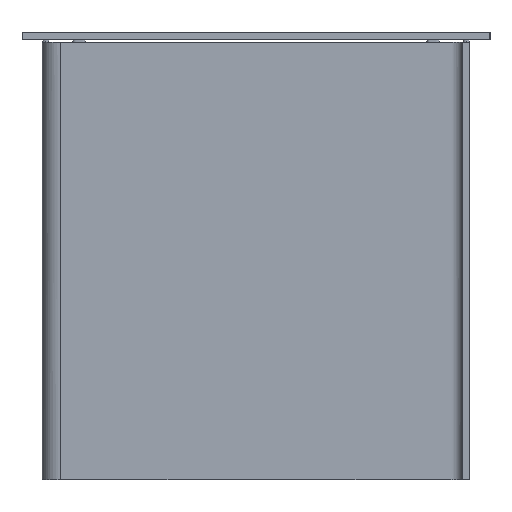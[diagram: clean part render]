
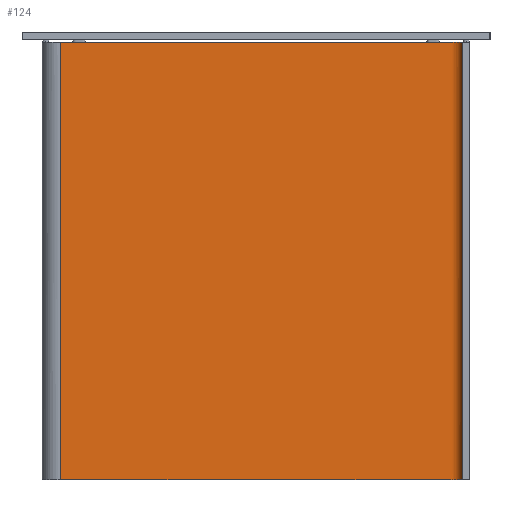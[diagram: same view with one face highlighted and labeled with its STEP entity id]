
A CAD part, left-side view. The second image highlights one B-rep face of the part: STEP entity #124.
In plain terms, the highlighted free-form (B-spline) face has degree [2, 1] with [7, 2] control points.
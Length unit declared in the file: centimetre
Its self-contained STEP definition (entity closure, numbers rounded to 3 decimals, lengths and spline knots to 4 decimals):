
#25=(
BOUNDED_SURFACE()
B_SPLINE_SURFACE(2,1,((#1143,#1144),(#1145,#1146),(#1147,#1148),(#1149,#1150),
(#1151,#1152),(#1153,#1154),(#1155,#1156)),.UNSPECIFIED.,.F.,.F.,.F.)
B_SPLINE_SURFACE_WITH_KNOTS((3,2,2,3),(2,2),(-66.5,-3.,-0.1726,
5.8274),(0.,71.),.UNSPECIFIED.)
GEOMETRIC_REPRESENTATION_ITEM()
RATIONAL_B_SPLINE_SURFACE(((1.,1.),(1.,1.),(1.,1.),(0.707,0.707),
(1.,1.),(1.,1.),(1.,1.)))
REPRESENTATION_ITEM($)
SURFACE()
);
#55=(
BOUNDED_CURVE()
B_SPLINE_CURVE(2,(#1079,#1080,#1081,#1082,#1083,#1084,#1085),.UNSPECIFIED.,
.F.,.F.)
B_SPLINE_CURVE_WITH_KNOTS((3,2,2,3),(-66.5,-3.,-0.1726,5.8274),
.UNSPECIFIED.)
CURVE()
GEOMETRIC_REPRESENTATION_ITEM()
RATIONAL_B_SPLINE_CURVE((1.,1.,1.,0.707,1.,1.,1.))
REPRESENTATION_ITEM($)
);
#59=(
BOUNDED_CURVE()
B_SPLINE_CURVE(2,(#1113,#1114,#1115,#1116,#1117,#1118,#1119),.UNSPECIFIED.,
.F.,.F.)
B_SPLINE_CURVE_WITH_KNOTS((3,2,2,3),(-5.8274,0.1726,
3.,66.5),.UNSPECIFIED.)
CURVE()
GEOMETRIC_REPRESENTATION_ITEM()
RATIONAL_B_SPLINE_CURVE((1.,1.,1.,0.707,1.,1.,1.))
REPRESENTATION_ITEM($)
);
#124=ADVANCED_FACE($,(#172),#25,.T.);
#172=FACE_OUTER_BOUND($,#220,.T.);
#220=EDGE_LOOP($,(#318,#319,#320,#321));
#318=ORIENTED_EDGE($,*,*,#453,.T.);
#319=ORIENTED_EDGE($,*,*,#449,.T.);
#320=ORIENTED_EDGE($,*,*,#443,.F.);
#321=ORIENTED_EDGE($,*,*,#442,.T.);
#442=EDGE_CURVE($,#520,#525,#55,.T.);
#443=EDGE_CURVE($,#520,#521,#602,.T.);
#449=EDGE_CURVE($,#526,#521,#59,.T.);
#453=EDGE_CURVE($,#525,#526,#607,.T.);
#520=VERTEX_POINT($,#1191);
#521=VERTEX_POINT($,#1192);
#525=VERTEX_POINT($,#1196);
#526=VERTEX_POINT($,#1197);
#602=B_SPLINE_CURVE_WITH_KNOTS($,1,(#1086,#1087),.UNSPECIFIED.,.F.,.F.,(2,
2),(0.,71.),.UNSPECIFIED.);
#607=B_SPLINE_CURVE_WITH_KNOTS($,1,(#1135,#1136),.UNSPECIFIED.,.F.,.F.,(2,
2),(0.,71.),.UNSPECIFIED.);
#1079=CARTESIAN_POINT($,(11.,69.75,0.));
#1080=CARTESIAN_POINT($,(11.,38.,0.));
#1081=CARTESIAN_POINT($,(11.,6.25,0.));
#1082=CARTESIAN_POINT($,(11.,4.45,0.));
#1083=CARTESIAN_POINT($,(9.2,4.45,0.));
#1084=CARTESIAN_POINT($,(6.2,4.45,0.));
#1085=CARTESIAN_POINT($,(3.2,4.45,0.));
#1086=CARTESIAN_POINT($,(11.,69.75,0.));
#1087=CARTESIAN_POINT($,(11.,69.75,71.));
#1113=CARTESIAN_POINT($,(3.2,4.45,71.));
#1114=CARTESIAN_POINT($,(6.2,4.45,71.));
#1115=CARTESIAN_POINT($,(9.2,4.45,71.));
#1116=CARTESIAN_POINT($,(11.,4.45,71.));
#1117=CARTESIAN_POINT($,(11.,6.25,71.));
#1118=CARTESIAN_POINT($,(11.,38.,71.));
#1119=CARTESIAN_POINT($,(11.,69.75,71.));
#1135=CARTESIAN_POINT($,(3.2,4.45,0.));
#1136=CARTESIAN_POINT($,(3.2,4.45,71.));
#1143=CARTESIAN_POINT($,(11.,69.75,0.));
#1144=CARTESIAN_POINT($,(11.,69.75,71.));
#1145=CARTESIAN_POINT($,(11.,38.,0.));
#1146=CARTESIAN_POINT($,(11.,38.,71.));
#1147=CARTESIAN_POINT($,(11.,6.25,0.));
#1148=CARTESIAN_POINT($,(11.,6.25,71.));
#1149=CARTESIAN_POINT($,(11.,4.45,0.));
#1150=CARTESIAN_POINT($,(11.,4.45,71.));
#1151=CARTESIAN_POINT($,(9.2,4.45,0.));
#1152=CARTESIAN_POINT($,(9.2,4.45,71.));
#1153=CARTESIAN_POINT($,(6.2,4.45,0.));
#1154=CARTESIAN_POINT($,(6.2,4.45,71.));
#1155=CARTESIAN_POINT($,(3.2,4.45,0.));
#1156=CARTESIAN_POINT($,(3.2,4.45,71.));
#1191=CARTESIAN_POINT($,(11.,69.75,0.));
#1192=CARTESIAN_POINT($,(11.,69.75,71.));
#1196=CARTESIAN_POINT($,(3.2,4.45,0.));
#1197=CARTESIAN_POINT($,(3.2,4.45,71.));
